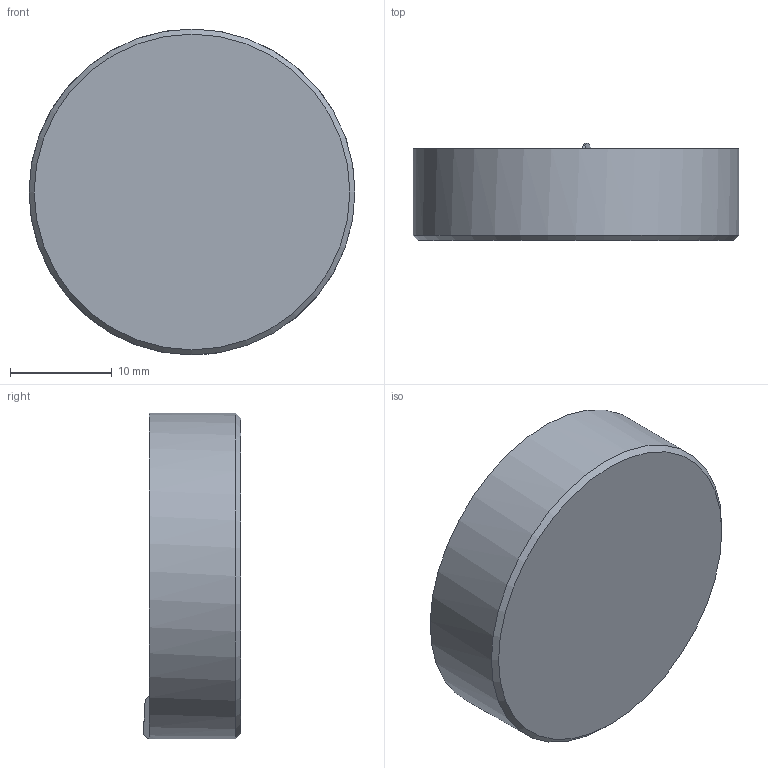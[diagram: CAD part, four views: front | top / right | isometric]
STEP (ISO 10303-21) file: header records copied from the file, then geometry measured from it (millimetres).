
FILE_DESCRIPTION( ( 'STEP AP203' ), '1' );
FILE_NAME( 'C:/Temp/Ganter_Step_05_03_2020/data/3_2/gn187_4/gn187_4_st/Serrated locking plate GN 187.4-32-48-E-ST.stp', '2020-03-13T05:25:50', ( 'License CC BY-ND 4.0' ), ( 'CADENAS' ), ' ', 'PARTsolutions', ' ' );
FILE_SCHEMA( ( 'CONFIG_CONTROL_DESIGN' ) );
Length unit declared in the file: millimetre
Products named in the file (1): _Serrated locking plate GN 187.4-32-48-E-ST
Bounding box: 32 x 9.57 x 32 mm (x, y, z)
Volume: 6788.9 mm3; surface area: 2562.3 mm2
Topology: 1 solids, 1 shells, 16 faces, 41 edges, 27 vertices
Faces by surface type: plane 7, cone 5, cylinder 4
Full cylindrical faces by diameter (mm): 23.5 x1, 32 x1
Entity records: 590 total; most frequent: CARTESIAN_POINT 186, DIRECTION 76, ORIENTED_EDGE 72, EDGE_CURVE 36, AXIS2_PLACEMENT_3D 35, VERTEX_POINT 25, EDGE_LOOP 19, FACE_OUTER_BOUND 18
